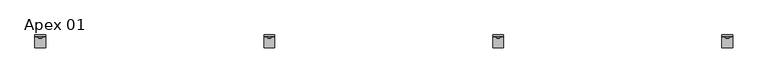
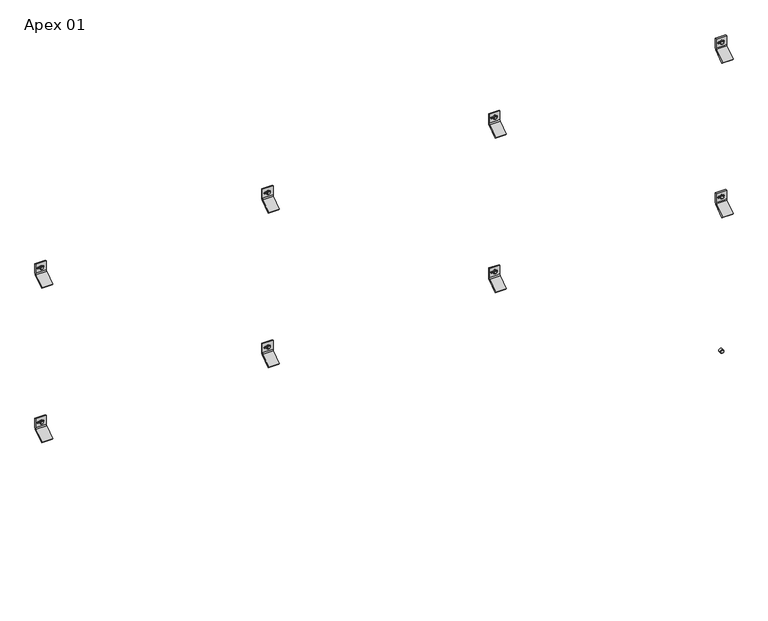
"""IFC4 building model written with IfcOpenShell, lengths in millimetres: plate geometry, Single-Panel-Perforated-Amico_Architectural : Apex 01."""

from ifc_helpers import new_model, si_unit, point, frame, frame_2d, origin, place, context, project, spatial, polyline, circle_curve, trimmed, segment, composite_curve, outline, extrude, source, transform, mapped, element, save
from ifc_brep_helpers import plane_surface, cylinder_surface, revolved_surface, advanced_brep


def apex_01_a5c02051(model_context):
    return source(origin(), model_context, "Body", "SolidModel", [
        extrude(outline(polyline([(1939.6304341, 1223.7070034), (1935.2847216, 1226.2160017), (1935.2847216, 1231.2339983), (1939.6304341, 1233.7429966), (1943.9761466, 1231.2339983), (1943.9761466, 1226.2160017), (1939.6304341, 1223.7070034)])), frame((0.0, -58.7607779, 0.0), z_axis=(0.0, 1.0, 0.0), x_axis=(0.0, 0.0, 1.0)), (0.0, 0.0, 1.0), 11.1357779),
        extrude(outline(composite_curve([segment(trimmed(circle_curve(frame_2d((1939.7237411, 1228.725)), 6.35), [point((1939.7237411, 1235.075))], [point((1939.7237411, 1222.375))], False, "CARTESIAN"), True, "CONTINUOUS"), segment(trimmed(circle_curve(frame_2d((1939.7237411, 1228.725)), 6.35), [point((1939.7237411, 1222.375))], [point((1939.7237411, 1235.075))], False, "CARTESIAN"), True, "CONTINUOUS")], self_intersect=False)), frame((0.0, -57.0817743, 0.0), z_axis=(0.0, 1.0, 0.0), x_axis=(0.0, 0.0, 1.0)), (0.0, 0.0, 1.0), 9.4567743),
        advanced_brep(
        [(1209.675, -47.625, 1922.481122), (1209.675, -51.2819443, 1914.8190896), (1209.675, -89.5163624, 1888.0470618), (1209.675, -92.9330442, 1891.4637436), (1209.675, -54.3526876, 1918.4780001), (1209.675, -52.4002, 1922.4811929), (1209.675, -52.4002, 1956.6738072), (1209.675, -47.625, 1956.6738072), (1247.775, -47.625, 1922.481122), (1247.775, -47.625, 1956.6738072), (1247.775, -52.4002, 1956.6738072), (1247.775, -52.4002, 1922.4811929), (1247.775, -54.3526876, 1918.4780001), (1247.775, -92.9330442, 1891.4637436), (1247.775, -89.5163624, 1888.0470618), (1247.775, -51.2819443, 1914.8190896), (1235.4661889, -52.4002, 1942.628591), (1235.4661889, -52.4002, 1936.278591), (1219.2383287, -52.4002, 1936.278591), (1219.2383287, -52.4002, 1942.628591), (1235.4661889, -47.625, 1936.278591), (1235.4661889, -47.625, 1942.628591), (1219.2383287, -47.625, 1942.628591), (1219.2383287, -47.625, 1936.278591)],
        [
            (0, 1, circle_curve(frame((1209.675, -57.4802202, 1922.481122), z_axis=(-1.0, 0.0, 0.0), x_axis=(0.0, -1.0, 0.0)), 9.8552202)),
            (1, 2),
            (2, 3),
            (3, 4),
            (4, 5, circle_curve(frame((1209.675, -57.4803246, 1922.4811929), z_axis=(1.0, 0.0, 0.0), x_axis=(0.0, -1.0, 0.0)), 5.0801246)),
            (5, 6),
            (6, 7),
            (7, 0),
            (8, 9),
            (9, 10),
            (10, 11),
            (11, 12, circle_curve(frame((1247.775, -57.4803246, 1922.4811929), z_axis=(-1.0, 0.0, 0.0), x_axis=(0.0, -1.0, 0.0)), 5.0801246)),
            (12, 13),
            (13, 14),
            (14, 15),
            (15, 8, circle_curve(frame((1247.775, -57.4802202, 1922.481122), z_axis=(1.0, 0.0, 0.0), x_axis=(0.0, -1.0, 0.0)), 9.8552202)),
            (4, 12),
            (11, 5),
            (10, 6),
            (16, 17, circle_curve(frame((1235.4661889, -52.4002, 1939.453591), z_axis=(0.0, 1.0, 0.0), x_axis=(0.0, 0.0, -1.0)), 3.175)),
            (17, 18),
            (18, 19, circle_curve(frame((1219.2383287, -52.4002, 1939.453591), z_axis=(0.0, 1.0, 0.0), x_axis=(0.0, 0.0, -1.0)), 3.175)),
            (19, 16),
            (9, 7),
            (8, 0),
            (20, 21, circle_curve(frame((1235.4661889, -47.625, 1939.453591), z_axis=(0.0, -1.0, 0.0), x_axis=(0.0, 0.0, -1.0)), 3.175)),
            (21, 22),
            (22, 23, circle_curve(frame((1219.2383287, -47.625, 1939.453591), z_axis=(0.0, -1.0, 0.0), x_axis=(0.0, 0.0, -1.0)), 3.175)),
            (23, 20),
            (15, 1),
            (20, 17),
            (16, 21),
            (19, 22),
            (18, 23),
            (14, 2),
            (13, 3),
        ],
        [
            plane_surface(frame((1209.675, -67.3354404, 1922.481122), z_axis=(-1.0, 0.0, 0.0), x_axis=(0.0, 0.0, 1.0))),
            plane_surface(frame((1247.775, -67.3354404, 1922.481122), z_axis=(1.0, 0.0, 0.0), x_axis=(0.0, 0.0, -1.0))),
            revolved_surface(polyline([(1247.775, -62.5604492, 1922.4811929), (1209.675, -62.5604492, 1922.4811929)]), (1247.775, -57.4803246, 1922.4811929), (1.0, 0.0, 0.0)),
            plane_surface(frame((1209.675, -52.4002, 1922.4811929), z_axis=(0.0, -1.0, 0.0), x_axis=(1.0, 0.0, 0.0))),
            plane_surface(frame((1209.675, -52.4002, 1956.6738072), z_axis=(0.0, 0.0, 1.0), x_axis=(1.0, 0.0, 0.0))),
            plane_surface(frame((1209.675, -47.625, 1956.6738072), z_axis=(0.0, 1.0, 6.99569853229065e-12), x_axis=(1.0, 0.0, 0.0))),
            cylinder_surface(frame((1247.775, -57.4802202, 1922.481122), z_axis=(-1.0, 0.0, 0.0), x_axis=(0.0, -1.0, 0.0)), 9.8552202),
            revolved_surface(polyline([(1235.4661889, -52.4002, 1936.278591), (1235.4661889, -47.625, 1936.278591)]), (1235.4661889, -25.6669948, 1939.453591), (0.0, -1.0, 0.0)),
            plane_surface(frame((1235.4661889, -86.677982, 1942.628591), z_axis=(0.0, 0.0, -1.0), x_axis=(0.0, 1.0, 0.0))),
            revolved_surface(polyline([(1219.2383287, -52.4002, 1936.278591), (1219.2383287, -47.625, 1936.278591)]), (1219.2383287, -25.6669948, 1939.453591), (0.0, -1.0, 0.0)),
            plane_surface(frame((1219.2383287, -86.677982, 1936.278591), z_axis=(-2.7237720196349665e-11, 0.0, 1.0), x_axis=(0.0, 1.0, 0.0))),
            plane_surface(frame((1209.675, -51.2819443, 1914.8190896), z_axis=(0.0, 0.5735764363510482, -0.8191520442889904), x_axis=(1.0, 0.0, 0.0))),
            plane_surface(frame((1209.675, -89.5163624, 1888.0470618), z_axis=(0.0, -0.7071067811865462, -0.7071067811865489), x_axis=(1.0, 0.0, 0.0))),
            plane_surface(frame((1209.675, -92.9330442, 1891.4637436), z_axis=(0.0, -0.5735764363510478, 0.8191520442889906), x_axis=(1.0, 0.0, 0.0))),
        ],
        [
            (0, [[1, 2, 3, 4, 5, 6, 7, 8]]),
            (1, [[9, 10, 11, 12, 13, 14, 15, 16]]),
            (2, [[-5, 17, -12, 18]]),
            (3, [[-6, -18, -11, 19], [20, 21, 22, 23]]),
            (4, [[-7, -19, -10, 24]]),
            (5, [[-8, -24, -9, 25], [26, 27, 28, 29]]),
            (6, [[-1, -25, -16, 30]]),
            (7, [[31, -20, 32, -26]]),
            (8, [[-32, -23, 33, -27]]),
            (9, [[-33, -22, 34, -28]]),
            (10, [[-31, -29, -34, -21]]),
            (11, [[-2, -30, -15, 35]]),
            (12, [[-3, -35, -14, 36]]),
            (13, [[-4, -36, -13, -17]]),
        ],
    ),
        extrude(outline(polyline([(1939.6304341, 404.5570034), (1935.2847216, 407.0660017), (1935.2847216, 412.0839983), (1939.6304341, 414.5929966), (1943.9761466, 412.0839983), (1943.9761466, 407.0660017), (1939.6304341, 404.5570034)])), frame((0.0, -58.7607779, 0.0), z_axis=(0.0, 1.0, 0.0), x_axis=(0.0, 0.0, 1.0)), (0.0, 0.0, 1.0), 11.1357779),
        extrude(outline(composite_curve([segment(trimmed(circle_curve(frame_2d((1939.7237411, 409.575)), 6.35), [point((1939.7237411, 415.925))], [point((1939.7237411, 403.225))], False, "CARTESIAN"), True, "CONTINUOUS"), segment(trimmed(circle_curve(frame_2d((1939.7237411, 409.575)), 6.35), [point((1939.7237411, 403.225))], [point((1939.7237411, 415.925))], False, "CARTESIAN"), True, "CONTINUOUS")], self_intersect=False)), frame((0.0, -57.0817743, 0.0), z_axis=(0.0, 1.0, 0.0), x_axis=(0.0, 0.0, 1.0)), (0.0, 0.0, 1.0), 9.4567743),
        advanced_brep(
        [(390.525, -47.625, 1922.481122), (390.525, -51.2819443, 1914.8190896), (390.525, -89.5163624, 1888.0470618), (390.525, -92.9330442, 1891.4637436), (390.525, -54.3526876, 1918.4780001), (390.525, -52.4002, 1922.4811929), (390.525, -52.4002, 1956.6738072), (390.525, -47.625, 1956.6738072), (428.625, -47.625, 1922.481122), (428.625, -47.625, 1956.6738072), (428.625, -52.4002, 1956.6738072), (428.625, -52.4002, 1922.4811929), (428.625, -54.3526876, 1918.4780001), (428.625, -92.9330442, 1891.4637436), (428.625, -89.5163624, 1888.0470618), (428.625, -51.2819443, 1914.8190896), (416.3161889, -52.4002, 1942.628591), (416.3161889, -52.4002, 1936.278591), (400.0883287, -52.4002, 1936.278591), (400.0883287, -52.4002, 1942.628591), (416.3161889, -47.625, 1936.278591), (416.3161889, -47.625, 1942.628591), (400.0883287, -47.625, 1942.628591), (400.0883287, -47.625, 1936.278591)],
        [
            (0, 1, circle_curve(frame((390.525, -57.4802202, 1922.481122), z_axis=(-1.0, 0.0, 0.0), x_axis=(0.0, -1.0, 0.0)), 9.8552202)),
            (1, 2),
            (2, 3),
            (3, 4),
            (4, 5, circle_curve(frame((390.525, -57.4803246, 1922.4811929), z_axis=(1.0, 0.0, 0.0), x_axis=(0.0, -1.0, 0.0)), 5.0801246)),
            (5, 6),
            (6, 7),
            (7, 0),
            (8, 9),
            (9, 10),
            (10, 11),
            (11, 12, circle_curve(frame((428.625, -57.4803246, 1922.4811929), z_axis=(-1.0, 0.0, 0.0), x_axis=(0.0, -1.0, 0.0)), 5.0801246)),
            (12, 13),
            (13, 14),
            (14, 15),
            (15, 8, circle_curve(frame((428.625, -57.4802202, 1922.481122), z_axis=(1.0, 0.0, 0.0), x_axis=(0.0, -1.0, 0.0)), 9.8552202)),
            (4, 12),
            (11, 5),
            (10, 6),
            (16, 17, circle_curve(frame((416.3161889, -52.4002, 1939.453591), z_axis=(0.0, 1.0, 0.0), x_axis=(0.0, 0.0, -1.0)), 3.175)),
            (17, 18),
            (18, 19, circle_curve(frame((400.0883287, -52.4002, 1939.453591), z_axis=(0.0, 1.0, 0.0), x_axis=(0.0, 0.0, -1.0)), 3.175)),
            (19, 16),
            (9, 7),
            (8, 0),
            (20, 21, circle_curve(frame((416.3161889, -47.625, 1939.453591), z_axis=(0.0, -1.0, 0.0), x_axis=(0.0, 0.0, -1.0)), 3.175)),
            (21, 22),
            (22, 23, circle_curve(frame((400.0883287, -47.625, 1939.453591), z_axis=(0.0, -1.0, 0.0), x_axis=(0.0, 0.0, -1.0)), 3.175)),
            (23, 20),
            (15, 1),
            (20, 17),
            (16, 21),
            (19, 22),
            (18, 23),
            (14, 2),
            (13, 3),
        ],
        [
            plane_surface(frame((390.525, -67.3354404, 1922.481122), z_axis=(-1.0, 0.0, 0.0), x_axis=(0.0, 0.0, 1.0))),
            plane_surface(frame((428.625, -67.3354404, 1922.481122), z_axis=(1.0, 0.0, 0.0), x_axis=(0.0, 0.0, -1.0))),
            revolved_surface(polyline([(428.625, -62.5604492, 1922.4811929), (390.525, -62.5604492, 1922.4811929)]), (428.625, -57.4803246, 1922.4811929), (1.0, 0.0, 0.0)),
            plane_surface(frame((390.525, -52.4002, 1922.4811929), z_axis=(0.0, -1.0, 0.0), x_axis=(1.0, 0.0, 0.0))),
            plane_surface(frame((390.525, -52.4002, 1956.6738072), z_axis=(0.0, 0.0, 1.0), x_axis=(1.0, 0.0, 0.0))),
            plane_surface(frame((390.525, -47.625, 1956.6738072), z_axis=(0.0, 1.0, 6.99569853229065e-12), x_axis=(1.0, 0.0, 0.0))),
            cylinder_surface(frame((428.625, -57.4802202, 1922.481122), z_axis=(-1.0, 0.0, 0.0), x_axis=(0.0, -1.0, 0.0)), 9.8552202),
            revolved_surface(polyline([(416.3161889, -52.4002, 1936.278591), (416.3161889, -47.625, 1936.278591)]), (416.3161889, -25.6669948, 1939.453591), (0.0, -1.0, 0.0)),
            plane_surface(frame((416.3161889, -86.677982, 1942.628591), z_axis=(0.0, 0.0, -1.0), x_axis=(0.0, 1.0, 0.0))),
            revolved_surface(polyline([(400.0883287, -52.4002, 1936.278591), (400.0883287, -47.625, 1936.278591)]), (400.0883287, -25.6669948, 1939.453591), (0.0, -1.0, 0.0)),
            plane_surface(frame((400.0883287, -86.677982, 1936.278591), z_axis=(-2.7237720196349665e-11, 0.0, 1.0), x_axis=(0.0, 1.0, 0.0))),
            plane_surface(frame((390.525, -51.2819443, 1914.8190896), z_axis=(0.0, 0.5735764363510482, -0.8191520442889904), x_axis=(1.0, 0.0, 0.0))),
            plane_surface(frame((390.525, -89.5163624, 1888.0470618), z_axis=(0.0, -0.7071067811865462, -0.7071067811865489), x_axis=(1.0, 0.0, 0.0))),
            plane_surface(frame((390.525, -92.9330442, 1891.4637436), z_axis=(0.0, -0.5735764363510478, 0.8191520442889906), x_axis=(1.0, 0.0, 0.0))),
        ],
        [
            (0, [[1, 2, 3, 4, 5, 6, 7, 8]]),
            (1, [[9, 10, 11, 12, 13, 14, 15, 16]]),
            (2, [[-5, 17, -12, 18]]),
            (3, [[-6, -18, -11, 19], [20, 21, 22, 23]]),
            (4, [[-7, -19, -10, 24]]),
            (5, [[-8, -24, -9, 25], [26, 27, 28, 29]]),
            (6, [[-1, -25, -16, 30]]),
            (7, [[31, -20, 32, -26]]),
            (8, [[-32, -23, 33, -27]]),
            (9, [[-33, -22, 34, -28]]),
            (10, [[-31, -29, -34, -21]]),
            (11, [[-2, -30, -15, 35]]),
            (12, [[-3, -35, -14, 36]]),
            (13, [[-4, -36, -13, -17]]),
        ],
    ),
        extrude(outline(polyline([(1939.6304341, -414.5929966), (1935.2847216, -412.0839983), (1935.2847216, -407.0660017), (1939.6304341, -404.5570034), (1943.9761466, -407.0660017), (1943.9761466, -412.0839983), (1939.6304341, -414.5929966)])), frame((0.0, -58.7607779, 0.0), z_axis=(0.0, 1.0, 0.0), x_axis=(0.0, 0.0, 1.0)), (0.0, 0.0, 1.0), 11.1357779),
        extrude(outline(composite_curve([segment(trimmed(circle_curve(frame_2d((1939.7237411, -409.575)), 6.35), [point((1939.7237411, -403.225))], [point((1939.7237411, -415.925))], False, "CARTESIAN"), True, "CONTINUOUS"), segment(trimmed(circle_curve(frame_2d((1939.7237411, -409.575)), 6.35), [point((1939.7237411, -415.925))], [point((1939.7237411, -403.225))], False, "CARTESIAN"), True, "CONTINUOUS")], self_intersect=False)), frame((0.0, -57.0817743, 0.0), z_axis=(0.0, 1.0, 0.0), x_axis=(0.0, 0.0, 1.0)), (0.0, 0.0, 1.0), 9.4567743),
        advanced_brep(
        [(-428.625, -47.625, 1922.481122), (-428.625, -51.2819443, 1914.8190896), (-428.625, -89.5163624, 1888.0470618), (-428.625, -92.9330442, 1891.4637436), (-428.625, -54.3526876, 1918.4780001), (-428.625, -52.4002, 1922.4811929), (-428.625, -52.4002, 1956.6738072), (-428.625, -47.625, 1956.6738072), (-390.525, -47.625, 1922.481122), (-390.525, -47.625, 1956.6738072), (-390.525, -52.4002, 1956.6738072), (-390.525, -52.4002, 1922.4811929), (-390.525, -54.3526876, 1918.4780001), (-390.525, -92.9330442, 1891.4637436), (-390.525, -89.5163624, 1888.0470618), (-390.525, -51.2819443, 1914.8190896), (-402.8338111, -52.4002, 1942.628591), (-402.8338111, -52.4002, 1936.278591), (-419.0616713, -52.4002, 1936.278591), (-419.0616713, -52.4002, 1942.628591), (-402.8338111, -47.625, 1936.278591), (-402.8338111, -47.625, 1942.628591), (-419.0616713, -47.625, 1942.628591), (-419.0616713, -47.625, 1936.278591)],
        [
            (0, 1, circle_curve(frame((-428.625, -57.4802202, 1922.481122), z_axis=(-1.0, 0.0, 0.0), x_axis=(0.0, -1.0, 0.0)), 9.8552202)),
            (1, 2),
            (2, 3),
            (3, 4),
            (4, 5, circle_curve(frame((-428.625, -57.4803246, 1922.4811929), z_axis=(1.0, 0.0, 0.0), x_axis=(0.0, -1.0, 0.0)), 5.0801246)),
            (5, 6),
            (6, 7),
            (7, 0),
            (8, 9),
            (9, 10),
            (10, 11),
            (11, 12, circle_curve(frame((-390.525, -57.4803246, 1922.4811929), z_axis=(-1.0, 0.0, 0.0), x_axis=(0.0, -1.0, 0.0)), 5.0801246)),
            (12, 13),
            (13, 14),
            (14, 15),
            (15, 8, circle_curve(frame((-390.525, -57.4802202, 1922.481122), z_axis=(1.0, 0.0, 0.0), x_axis=(0.0, -1.0, 0.0)), 9.8552202)),
            (4, 12),
            (11, 5),
            (10, 6),
            (16, 17, circle_curve(frame((-402.8338111, -52.4002, 1939.453591), z_axis=(0.0, 1.0, 0.0), x_axis=(0.0, 0.0, -1.0)), 3.175)),
            (17, 18),
            (18, 19, circle_curve(frame((-419.0616713, -52.4002, 1939.453591), z_axis=(0.0, 1.0, 0.0), x_axis=(0.0, 0.0, -1.0)), 3.175)),
            (19, 16),
            (9, 7),
            (8, 0),
            (20, 21, circle_curve(frame((-402.8338111, -47.625, 1939.453591), z_axis=(0.0, -1.0, 0.0), x_axis=(0.0, 0.0, -1.0)), 3.175)),
            (21, 22),
            (22, 23, circle_curve(frame((-419.0616713, -47.625, 1939.453591), z_axis=(0.0, -1.0, 0.0), x_axis=(0.0, 0.0, -1.0)), 3.175)),
            (23, 20),
            (15, 1),
            (20, 17),
            (16, 21),
            (19, 22),
            (18, 23),
            (14, 2),
            (13, 3),
        ],
        [
            plane_surface(frame((-428.625, -67.3354404, 1922.481122), z_axis=(-1.0, 0.0, 0.0), x_axis=(0.0, 0.0, 1.0))),
            plane_surface(frame((-390.525, -67.3354404, 1922.481122), z_axis=(1.0, 0.0, 0.0), x_axis=(0.0, 0.0, -1.0))),
            revolved_surface(polyline([(-390.525, -62.5604492, 1922.4811929), (-428.625, -62.5604492, 1922.4811929)]), (-390.525, -57.4803246, 1922.4811929), (1.0, 0.0, 0.0)),
            plane_surface(frame((-428.625, -52.4002, 1922.4811929), z_axis=(0.0, -1.0, 0.0), x_axis=(1.0, 0.0, 0.0))),
            plane_surface(frame((-428.625, -52.4002, 1956.6738072), z_axis=(0.0, 0.0, 1.0), x_axis=(1.0, 0.0, 0.0))),
            plane_surface(frame((-428.625, -47.625, 1956.6738072), z_axis=(0.0, 1.0, 6.99569853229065e-12), x_axis=(1.0, 0.0, 0.0))),
            cylinder_surface(frame((-390.525, -57.4802202, 1922.481122), z_axis=(-1.0, 0.0, 0.0), x_axis=(0.0, -1.0, 0.0)), 9.8552202),
            revolved_surface(polyline([(-402.8338111, -52.4002, 1936.278591), (-402.8338111, -47.625, 1936.278591)]), (-402.8338111, -25.6669948, 1939.453591), (0.0, -1.0, 0.0)),
            plane_surface(frame((-402.8338111, -86.677982, 1942.628591), z_axis=(0.0, 0.0, -1.0), x_axis=(0.0, 1.0, 0.0))),
            revolved_surface(polyline([(-419.0616713, -52.4002, 1936.278591), (-419.0616713, -47.625, 1936.278591)]), (-419.0616713, -25.6669948, 1939.453591), (0.0, -1.0, 0.0)),
            plane_surface(frame((-419.0616713, -86.677982, 1936.278591), z_axis=(-2.7237720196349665e-11, 0.0, 1.0), x_axis=(0.0, 1.0, 0.0))),
            plane_surface(frame((-428.625, -51.2819443, 1914.8190896), z_axis=(0.0, 0.5735764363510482, -0.8191520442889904), x_axis=(1.0, 0.0, 0.0))),
            plane_surface(frame((-428.625, -89.5163624, 1888.0470618), z_axis=(0.0, -0.7071067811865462, -0.7071067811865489), x_axis=(1.0, 0.0, 0.0))),
            plane_surface(frame((-428.625, -92.9330442, 1891.4637436), z_axis=(0.0, -0.5735764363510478, 0.8191520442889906), x_axis=(1.0, 0.0, 0.0))),
        ],
        [
            (0, [[1, 2, 3, 4, 5, 6, 7, 8]]),
            (1, [[9, 10, 11, 12, 13, 14, 15, 16]]),
            (2, [[-5, 17, -12, 18]]),
            (3, [[-6, -18, -11, 19], [20, 21, 22, 23]]),
            (4, [[-7, -19, -10, 24]]),
            (5, [[-8, -24, -9, 25], [26, 27, 28, 29]]),
            (6, [[-1, -25, -16, 30]]),
            (7, [[31, -20, 32, -26]]),
            (8, [[-32, -23, 33, -27]]),
            (9, [[-33, -22, 34, -28]]),
            (10, [[-31, -29, -34, -21]]),
            (11, [[-2, -30, -15, 35]]),
            (12, [[-3, -35, -14, 36]]),
            (13, [[-4, -36, -13, -17]]),
        ],
    ),
        extrude(outline(polyline([(1939.6304341, -1233.7429966), (1935.2847216, -1231.2339983), (1935.2847216, -1226.2160017), (1939.6304341, -1223.7070034), (1943.9761466, -1226.2160017), (1943.9761466, -1231.2339983), (1939.6304341, -1233.7429966)])), frame((0.0, -58.7607779, 0.0), z_axis=(0.0, 1.0, 0.0), x_axis=(0.0, 0.0, 1.0)), (0.0, 0.0, 1.0), 11.1357779),
        extrude(outline(composite_curve([segment(trimmed(circle_curve(frame_2d((1939.7237411, -1228.725)), 6.35), [point((1939.7237411, -1222.375))], [point((1939.7237411, -1235.075))], False, "CARTESIAN"), True, "CONTINUOUS"), segment(trimmed(circle_curve(frame_2d((1939.7237411, -1228.725)), 6.35), [point((1939.7237411, -1235.075))], [point((1939.7237411, -1222.375))], False, "CARTESIAN"), True, "CONTINUOUS")], self_intersect=False)), frame((0.0, -57.0817743, 0.0), z_axis=(0.0, 1.0, 0.0), x_axis=(0.0, 0.0, 1.0)), (0.0, 0.0, 1.0), 9.4567743),
        advanced_brep(
        [(-1247.775, -47.625, 1922.481122), (-1247.775, -51.2819443, 1914.8190896), (-1247.775, -89.5163624, 1888.0470618), (-1247.775, -92.9330442, 1891.4637436), (-1247.775, -54.3526876, 1918.4780001), (-1247.775, -52.4002, 1922.4811929), (-1247.775, -52.4002, 1956.6738072), (-1247.775, -47.625, 1956.6738072), (-1209.675, -47.625, 1922.481122), (-1209.675, -47.625, 1956.6738072), (-1209.675, -52.4002, 1956.6738072), (-1209.675, -52.4002, 1922.4811929), (-1209.675, -54.3526876, 1918.4780001), (-1209.675, -92.9330442, 1891.4637436), (-1209.675, -89.5163624, 1888.0470618), (-1209.675, -51.2819443, 1914.8190896), (-1221.9838111, -52.4002, 1942.628591), (-1221.9838111, -52.4002, 1936.278591), (-1238.2116713, -52.4002, 1936.278591), (-1238.2116713, -52.4002, 1942.628591), (-1221.9838111, -47.625, 1936.278591), (-1221.9838111, -47.625, 1942.628591), (-1238.2116713, -47.625, 1942.628591), (-1238.2116713, -47.625, 1936.278591)],
        [
            (0, 1, circle_curve(frame((-1247.775, -57.4802202, 1922.481122), z_axis=(-1.0, 0.0, 0.0), x_axis=(0.0, -1.0, 0.0)), 9.8552202)),
            (1, 2),
            (2, 3),
            (3, 4),
            (4, 5, circle_curve(frame((-1247.775, -57.4803246, 1922.4811929), z_axis=(1.0, 0.0, 0.0), x_axis=(0.0, -1.0, 0.0)), 5.0801246)),
            (5, 6),
            (6, 7),
            (7, 0),
            (8, 9),
            (9, 10),
            (10, 11),
            (11, 12, circle_curve(frame((-1209.675, -57.4803246, 1922.4811929), z_axis=(-1.0, 0.0, 0.0), x_axis=(0.0, -1.0, 0.0)), 5.0801246)),
            (12, 13),
            (13, 14),
            (14, 15),
            (15, 8, circle_curve(frame((-1209.675, -57.4802202, 1922.481122), z_axis=(1.0, 0.0, 0.0), x_axis=(0.0, -1.0, 0.0)), 9.8552202)),
            (4, 12),
            (11, 5),
            (10, 6),
            (16, 17, circle_curve(frame((-1221.9838111, -52.4002, 1939.453591), z_axis=(0.0, 1.0, 0.0), x_axis=(0.0, 0.0, -1.0)), 3.175)),
            (17, 18),
            (18, 19, circle_curve(frame((-1238.2116713, -52.4002, 1939.453591), z_axis=(0.0, 1.0, 0.0), x_axis=(0.0, 0.0, -1.0)), 3.175)),
            (19, 16),
            (9, 7),
            (8, 0),
            (20, 21, circle_curve(frame((-1221.9838111, -47.625, 1939.453591), z_axis=(0.0, -1.0, 0.0), x_axis=(0.0, 0.0, -1.0)), 3.175)),
            (21, 22),
            (22, 23, circle_curve(frame((-1238.2116713, -47.625, 1939.453591), z_axis=(0.0, -1.0, 0.0), x_axis=(0.0, 0.0, -1.0)), 3.175)),
            (23, 20),
            (15, 1),
            (20, 17),
            (16, 21),
            (19, 22),
            (18, 23),
            (14, 2),
            (13, 3),
        ],
        [
            plane_surface(frame((-1247.775, -67.3354404, 1922.481122), z_axis=(-1.0, 0.0, 0.0), x_axis=(0.0, 0.0, 1.0))),
            plane_surface(frame((-1209.675, -67.3354404, 1922.481122), z_axis=(1.0, 0.0, 0.0), x_axis=(0.0, 0.0, -1.0))),
            revolved_surface(polyline([(-1209.675, -62.5604492, 1922.4811929), (-1247.775, -62.5604492, 1922.4811929)]), (-1209.675, -57.4803246, 1922.4811929), (1.0, 0.0, 0.0)),
            plane_surface(frame((-1247.775, -52.4002, 1922.4811929), z_axis=(0.0, -1.0, 0.0), x_axis=(1.0, 0.0, 0.0))),
            plane_surface(frame((-1247.775, -52.4002, 1956.6738072), z_axis=(0.0, 0.0, 1.0), x_axis=(1.0, 0.0, 0.0))),
            plane_surface(frame((-1247.775, -47.625, 1956.6738072), z_axis=(0.0, 1.0, 6.99569853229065e-12), x_axis=(1.0, 0.0, 0.0))),
            cylinder_surface(frame((-1209.675, -57.4802202, 1922.481122), z_axis=(-1.0, 0.0, 0.0), x_axis=(0.0, -1.0, 0.0)), 9.8552202),
            revolved_surface(polyline([(-1221.9838111, -52.4002, 1936.278591), (-1221.9838111, -47.625, 1936.278591)]), (-1221.9838111, -25.6669948, 1939.453591), (0.0, -1.0, 0.0)),
            plane_surface(frame((-1221.9838111, -86.677982, 1942.628591), z_axis=(0.0, 0.0, -1.0), x_axis=(0.0, 1.0, 0.0))),
            revolved_surface(polyline([(-1238.2116713, -52.4002, 1936.278591), (-1238.2116713, -47.625, 1936.278591)]), (-1238.2116713, -25.6669948, 1939.453591), (0.0, -1.0, 0.0)),
            plane_surface(frame((-1238.2116713, -86.677982, 1936.278591), z_axis=(-2.7237720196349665e-11, 0.0, 1.0), x_axis=(0.0, 1.0, 0.0))),
            plane_surface(frame((-1247.775, -51.2819443, 1914.8190896), z_axis=(0.0, 0.5735764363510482, -0.8191520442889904), x_axis=(1.0, 0.0, 0.0))),
            plane_surface(frame((-1247.775, -89.5163624, 1888.0470618), z_axis=(0.0, -0.7071067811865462, -0.7071067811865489), x_axis=(1.0, 0.0, 0.0))),
            plane_surface(frame((-1247.775, -92.9330442, 1891.4637436), z_axis=(0.0, -0.5735764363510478, 0.8191520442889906), x_axis=(1.0, 0.0, 0.0))),
        ],
        [
            (0, [[1, 2, 3, 4, 5, 6, 7, 8]]),
            (1, [[9, 10, 11, 12, 13, 14, 15, 16]]),
            (2, [[-5, 17, -12, 18]]),
            (3, [[-6, -18, -11, 19], [20, 21, 22, 23]]),
            (4, [[-7, -19, -10, 24]]),
            (5, [[-8, -24, -9, 25], [26, 27, 28, 29]]),
            (6, [[-1, -25, -16, 30]]),
            (7, [[31, -20, 32, -26]]),
            (8, [[-32, -23, 33, -27]]),
            (9, [[-33, -22, 34, -28]]),
            (10, [[-31, -29, -34, -21]]),
            (11, [[-2, -30, -15, 35]]),
            (12, [[-3, -35, -14, 36]]),
            (13, [[-4, -36, -13, -17]]),
        ],
    ),
        extrude(outline(polyline([(1349.7134668, 1223.7070034), (1345.3677543, 1226.2160017), (1345.3677543, 1231.2339983), (1349.7134668, 1233.7429966), (1354.0591793, 1231.2339983), (1354.0591793, 1226.2160017), (1349.7134668, 1223.7070034)])), frame((0.0, -58.7607779, 0.0), z_axis=(0.0, 1.0, 0.0), x_axis=(0.0, 0.0, 1.0)), (0.0, 0.0, 1.0), 11.1357779),
        extrude(outline(composite_curve([segment(trimmed(circle_curve(frame_2d((1349.8067738, 1228.725)), 6.35), [point((1349.8067738, 1235.075))], [point((1349.8067738, 1222.375))], False, "CARTESIAN"), True, "CONTINUOUS"), segment(trimmed(circle_curve(frame_2d((1349.8067738, 1228.725)), 6.35), [point((1349.8067738, 1222.375))], [point((1349.8067738, 1235.075))], False, "CARTESIAN"), True, "CONTINUOUS")], self_intersect=False)), frame((0.0, -57.0817743, 0.0), z_axis=(0.0, 1.0, 0.0), x_axis=(0.0, 0.0, 1.0)), (0.0, 0.0, 1.0), 9.4567743),
        advanced_brep(
        [(1209.675, -47.625, 1332.5641547), (1209.675, -51.2819443, 1324.9021223), (1209.675, -89.5163624, 1298.1300945), (1209.675, -92.9330442, 1301.5467763), (1209.675, -54.3526876, 1328.5610329), (1209.675, -52.4002, 1332.5642256), (1209.675, -52.4002, 1366.7568399), (1209.675, -47.625, 1366.7568399), (1247.775, -47.625, 1332.5641547), (1247.775, -47.625, 1366.7568399), (1247.775, -52.4002, 1366.7568399), (1247.775, -52.4002, 1332.5642256), (1247.775, -54.3526876, 1328.5610329), (1247.775, -92.9330442, 1301.5467763), (1247.775, -89.5163624, 1298.1300945), (1247.775, -51.2819443, 1324.9021223), (1235.4661889, -52.4002, 1352.7116237), (1235.4661889, -52.4002, 1346.3616237), (1219.2383287, -52.4002, 1346.3616237), (1219.2383287, -52.4002, 1352.7116237), (1235.4661889, -47.625, 1346.3616237), (1235.4661889, -47.625, 1352.7116237), (1219.2383287, -47.625, 1352.7116237), (1219.2383287, -47.625, 1346.3616237)],
        [
            (0, 1, circle_curve(frame((1209.675, -57.4802202, 1332.5641547), z_axis=(-1.0, 0.0, 0.0), x_axis=(0.0, -1.0, 0.0)), 9.8552202)),
            (1, 2),
            (2, 3),
            (3, 4),
            (4, 5, circle_curve(frame((1209.675, -57.4803246, 1332.5642256), z_axis=(1.0, 0.0, 0.0), x_axis=(0.0, -1.0, 0.0)), 5.0801246)),
            (5, 6),
            (6, 7),
            (7, 0),
            (8, 9),
            (9, 10),
            (10, 11),
            (11, 12, circle_curve(frame((1247.775, -57.4803246, 1332.5642256), z_axis=(-1.0, 0.0, 0.0), x_axis=(0.0, -1.0, 0.0)), 5.0801246)),
            (12, 13),
            (13, 14),
            (14, 15),
            (15, 8, circle_curve(frame((1247.775, -57.4802202, 1332.5641547), z_axis=(1.0, 0.0, 0.0), x_axis=(0.0, -1.0, 0.0)), 9.8552202)),
            (4, 12),
            (11, 5),
            (10, 6),
            (16, 17, circle_curve(frame((1235.4661889, -52.4002, 1349.5366237), z_axis=(0.0, 1.0, 0.0), x_axis=(0.0, 0.0, -1.0)), 3.175)),
            (17, 18),
            (18, 19, circle_curve(frame((1219.2383287, -52.4002, 1349.5366237), z_axis=(0.0, 1.0, 0.0), x_axis=(0.0, 0.0, -1.0)), 3.175)),
            (19, 16),
            (9, 7),
            (8, 0),
            (20, 21, circle_curve(frame((1235.4661889, -47.625, 1349.5366237), z_axis=(0.0, -1.0, 0.0), x_axis=(0.0, 0.0, -1.0)), 3.175)),
            (21, 22),
            (22, 23, circle_curve(frame((1219.2383287, -47.625, 1349.5366237), z_axis=(0.0, -1.0, 0.0), x_axis=(0.0, 0.0, -1.0)), 3.175)),
            (23, 20),
            (15, 1),
            (20, 17),
            (16, 21),
            (19, 22),
            (18, 23),
            (14, 2),
            (13, 3),
        ],
        [
            plane_surface(frame((1209.675, -67.3354404, 1332.5641547), z_axis=(-1.0, 0.0, 0.0), x_axis=(0.0, 0.0, 1.0))),
            plane_surface(frame((1247.775, -67.3354404, 1332.5641547), z_axis=(1.0, 0.0, 0.0), x_axis=(0.0, 0.0, -1.0))),
            revolved_surface(polyline([(1247.775, -62.5604492, 1332.5642256), (1209.675, -62.5604492, 1332.5642256)]), (1247.775, -57.4803246, 1332.5642256), (1.0, 0.0, 0.0)),
            plane_surface(frame((1209.675, -52.4002, 1332.5642256), z_axis=(0.0, -1.0, 0.0), x_axis=(1.0, 0.0, 0.0))),
            plane_surface(frame((1209.675, -52.4002, 1366.7568399), z_axis=(0.0, 0.0, 1.0), x_axis=(1.0, 0.0, 0.0))),
            plane_surface(frame((1209.675, -47.625, 1366.7568399), z_axis=(0.0, 1.0, 6.99569853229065e-12), x_axis=(1.0, 0.0, 0.0))),
            cylinder_surface(frame((1247.775, -57.4802202, 1332.5641547), z_axis=(-1.0, 0.0, 0.0), x_axis=(0.0, -1.0, 0.0)), 9.8552202),
            revolved_surface(polyline([(1235.4661889, -52.4002, 1346.3616237), (1235.4661889, -47.625, 1346.3616237)]), (1235.4661889, -25.6669948, 1349.5366237), (0.0, -1.0, 0.0)),
            plane_surface(frame((1235.4661889, -86.677982, 1352.7116237), z_axis=(0.0, 0.0, -1.0), x_axis=(0.0, 1.0, 0.0))),
            revolved_surface(polyline([(1219.2383287, -52.4002, 1346.3616237), (1219.2383287, -47.625, 1346.3616237)]), (1219.2383287, -25.6669948, 1349.5366237), (0.0, -1.0, 0.0)),
            plane_surface(frame((1219.2383287, -86.677982, 1346.3616237), z_axis=(-2.7237766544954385e-11, 0.0, 1.0), x_axis=(0.0, 1.0, 0.0))),
            plane_surface(frame((1209.675, -51.2819443, 1324.9021223), z_axis=(0.0, 0.5735764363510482, -0.8191520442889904), x_axis=(1.0, 0.0, 0.0))),
            plane_surface(frame((1209.675, -89.5163624, 1298.1300945), z_axis=(0.0, -0.7071067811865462, -0.7071067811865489), x_axis=(1.0, 0.0, 0.0))),
            plane_surface(frame((1209.675, -92.9330442, 1301.5467763), z_axis=(0.0, -0.5735764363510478, 0.8191520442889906), x_axis=(1.0, 0.0, 0.0))),
        ],
        [
            (0, [[1, 2, 3, 4, 5, 6, 7, 8]]),
            (1, [[9, 10, 11, 12, 13, 14, 15, 16]]),
            (2, [[-5, 17, -12, 18]]),
            (3, [[-6, -18, -11, 19], [20, 21, 22, 23]]),
            (4, [[-7, -19, -10, 24]]),
            (5, [[-8, -24, -9, 25], [26, 27, 28, 29]]),
            (6, [[-1, -25, -16, 30]]),
            (7, [[31, -20, 32, -26]]),
            (8, [[-32, -23, 33, -27]]),
            (9, [[-33, -22, 34, -28]]),
            (10, [[-31, -29, -34, -21]]),
            (11, [[-2, -30, -15, 35]]),
            (12, [[-3, -35, -14, 36]]),
            (13, [[-4, -36, -13, -17]]),
        ],
    ),
        extrude(outline(polyline([(1349.7134668, 404.5570034), (1345.3677543, 407.0660017), (1345.3677543, 412.0839983), (1349.7134668, 414.5929966), (1354.0591793, 412.0839983), (1354.0591793, 407.0660017), (1349.7134668, 404.5570034)])), frame((0.0, -58.7607779, 0.0), z_axis=(0.0, 1.0, 0.0), x_axis=(0.0, 0.0, 1.0)), (0.0, 0.0, 1.0), 11.1357779),
        extrude(outline(composite_curve([segment(trimmed(circle_curve(frame_2d((1349.8067738, 409.575)), 6.35), [point((1349.8067738, 415.925))], [point((1349.8067738, 403.225))], False, "CARTESIAN"), True, "CONTINUOUS"), segment(trimmed(circle_curve(frame_2d((1349.8067738, 409.575)), 6.35), [point((1349.8067738, 403.225))], [point((1349.8067738, 415.925))], False, "CARTESIAN"), True, "CONTINUOUS")], self_intersect=False)), frame((0.0, -57.0817743, 0.0), z_axis=(0.0, 1.0, 0.0), x_axis=(0.0, 0.0, 1.0)), (0.0, 0.0, 1.0), 9.4567743),
        advanced_brep(
        [(390.525, -47.625, 1332.5641547), (390.525, -51.2819443, 1324.9021223), (390.525, -89.5163624, 1298.1300945), (390.525, -92.9330442, 1301.5467763), (390.525, -54.3526876, 1328.5610329), (390.525, -52.4002, 1332.5642256), (390.525, -52.4002, 1366.7568399), (390.525, -47.625, 1366.7568399), (428.625, -47.625, 1332.5641547), (428.625, -47.625, 1366.7568399), (428.625, -52.4002, 1366.7568399), (428.625, -52.4002, 1332.5642256), (428.625, -54.3526876, 1328.5610329), (428.625, -92.9330442, 1301.5467763), (428.625, -89.5163624, 1298.1300945), (428.625, -51.2819443, 1324.9021223), (416.3161889, -52.4002, 1352.7116237), (416.3161889, -52.4002, 1346.3616237), (400.0883287, -52.4002, 1346.3616237), (400.0883287, -52.4002, 1352.7116237), (416.3161889, -47.625, 1346.3616237), (416.3161889, -47.625, 1352.7116237), (400.0883287, -47.625, 1352.7116237), (400.0883287, -47.625, 1346.3616237)],
        [
            (0, 1, circle_curve(frame((390.525, -57.4802202, 1332.5641547), z_axis=(-1.0, 0.0, 0.0), x_axis=(0.0, -1.0, 0.0)), 9.8552202)),
            (1, 2),
            (2, 3),
            (3, 4),
            (4, 5, circle_curve(frame((390.525, -57.4803246, 1332.5642256), z_axis=(1.0, 0.0, 0.0), x_axis=(0.0, -1.0, 0.0)), 5.0801246)),
            (5, 6),
            (6, 7),
            (7, 0),
            (8, 9),
            (9, 10),
            (10, 11),
            (11, 12, circle_curve(frame((428.625, -57.4803246, 1332.5642256), z_axis=(-1.0, 0.0, 0.0), x_axis=(0.0, -1.0, 0.0)), 5.0801246)),
            (12, 13),
            (13, 14),
            (14, 15),
            (15, 8, circle_curve(frame((428.625, -57.4802202, 1332.5641547), z_axis=(1.0, 0.0, 0.0), x_axis=(0.0, -1.0, 0.0)), 9.8552202)),
            (4, 12),
            (11, 5),
            (10, 6),
            (16, 17, circle_curve(frame((416.3161889, -52.4002, 1349.5366237), z_axis=(0.0, 1.0, 0.0), x_axis=(0.0, 0.0, -1.0)), 3.175)),
            (17, 18),
            (18, 19, circle_curve(frame((400.0883287, -52.4002, 1349.5366237), z_axis=(0.0, 1.0, 0.0), x_axis=(0.0, 0.0, -1.0)), 3.175)),
            (19, 16),
            (9, 7),
            (8, 0),
            (20, 21, circle_curve(frame((416.3161889, -47.625, 1349.5366237), z_axis=(0.0, -1.0, 0.0), x_axis=(0.0, 0.0, -1.0)), 3.175)),
            (21, 22),
            (22, 23, circle_curve(frame((400.0883287, -47.625, 1349.5366237), z_axis=(0.0, -1.0, 0.0), x_axis=(0.0, 0.0, -1.0)), 3.175)),
            (23, 20),
            (15, 1),
            (20, 17),
            (16, 21),
            (19, 22),
            (18, 23),
            (14, 2),
            (13, 3),
        ],
        [
            plane_surface(frame((390.525, -67.3354404, 1332.5641547), z_axis=(-1.0, 0.0, 0.0), x_axis=(0.0, 0.0, 1.0))),
            plane_surface(frame((428.625, -67.3354404, 1332.5641547), z_axis=(1.0, 0.0, 0.0), x_axis=(0.0, 0.0, -1.0))),
            revolved_surface(polyline([(428.625, -62.5604492, 1332.5642256), (390.525, -62.5604492, 1332.5642256)]), (428.625, -57.4803246, 1332.5642256), (1.0, 0.0, 0.0)),
            plane_surface(frame((390.525, -52.4002, 1332.5642256), z_axis=(0.0, -1.0, 0.0), x_axis=(1.0, 0.0, 0.0))),
            plane_surface(frame((390.525, -52.4002, 1366.7568399), z_axis=(0.0, 0.0, 1.0), x_axis=(1.0, 0.0, 0.0))),
            plane_surface(frame((390.525, -47.625, 1366.7568399), z_axis=(0.0, 1.0, 6.99569853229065e-12), x_axis=(1.0, 0.0, 0.0))),
            cylinder_surface(frame((428.625, -57.4802202, 1332.5641547), z_axis=(-1.0, 0.0, 0.0), x_axis=(0.0, -1.0, 0.0)), 9.8552202),
            revolved_surface(polyline([(416.3161889, -52.4002, 1346.3616237), (416.3161889, -47.625, 1346.3616237)]), (416.3161889, -25.6669948, 1349.5366237), (0.0, -1.0, 0.0)),
            plane_surface(frame((416.3161889, -86.677982, 1352.7116237), z_axis=(0.0, 0.0, -1.0), x_axis=(0.0, 1.0, 0.0))),
            revolved_surface(polyline([(400.0883287, -52.4002, 1346.3616237), (400.0883287, -47.625, 1346.3616237)]), (400.0883287, -25.6669948, 1349.5366237), (0.0, -1.0, 0.0)),
            plane_surface(frame((400.0883287, -86.677982, 1346.3616237), z_axis=(-2.7237766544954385e-11, 0.0, 1.0), x_axis=(0.0, 1.0, 0.0))),
            plane_surface(frame((390.525, -51.2819443, 1324.9021223), z_axis=(0.0, 0.5735764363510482, -0.8191520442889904), x_axis=(1.0, 0.0, 0.0))),
            plane_surface(frame((390.525, -89.5163624, 1298.1300945), z_axis=(0.0, -0.7071067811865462, -0.7071067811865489), x_axis=(1.0, 0.0, 0.0))),
            plane_surface(frame((390.525, -92.9330442, 1301.5467763), z_axis=(0.0, -0.5735764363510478, 0.8191520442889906), x_axis=(1.0, 0.0, 0.0))),
        ],
        [
            (0, [[1, 2, 3, 4, 5, 6, 7, 8]]),
            (1, [[9, 10, 11, 12, 13, 14, 15, 16]]),
            (2, [[-5, 17, -12, 18]]),
            (3, [[-6, -18, -11, 19], [20, 21, 22, 23]]),
            (4, [[-7, -19, -10, 24]]),
            (5, [[-8, -24, -9, 25], [26, 27, 28, 29]]),
            (6, [[-1, -25, -16, 30]]),
            (7, [[31, -20, 32, -26]]),
            (8, [[-32, -23, 33, -27]]),
            (9, [[-33, -22, 34, -28]]),
            (10, [[-31, -29, -34, -21]]),
            (11, [[-2, -30, -15, 35]]),
            (12, [[-3, -35, -14, 36]]),
            (13, [[-4, -36, -13, -17]]),
        ],
    ),
        extrude(outline(polyline([(1349.7134668, -414.5929966), (1345.3677543, -412.0839983), (1345.3677543, -407.0660017), (1349.7134668, -404.5570034), (1354.0591793, -407.0660017), (1354.0591793, -412.0839983), (1349.7134668, -414.5929966)])), frame((0.0, -58.7607779, 0.0), z_axis=(0.0, 1.0, 0.0), x_axis=(0.0, 0.0, 1.0)), (0.0, 0.0, 1.0), 11.1357779),
        extrude(outline(composite_curve([segment(trimmed(circle_curve(frame_2d((1349.8067738, -409.575)), 6.35), [point((1349.8067738, -403.225))], [point((1349.8067738, -415.925))], False, "CARTESIAN"), True, "CONTINUOUS"), segment(trimmed(circle_curve(frame_2d((1349.8067738, -409.575)), 6.35), [point((1349.8067738, -415.925))], [point((1349.8067738, -403.225))], False, "CARTESIAN"), True, "CONTINUOUS")], self_intersect=False)), frame((0.0, -57.0817743, 0.0), z_axis=(0.0, 1.0, 0.0), x_axis=(0.0, 0.0, 1.0)), (0.0, 0.0, 1.0), 9.4567743),
        advanced_brep(
        [(-428.625, -47.625, 1332.5641547), (-428.625, -51.2819443, 1324.9021223), (-428.625, -89.5163624, 1298.1300945), (-428.625, -92.9330442, 1301.5467763), (-428.625, -54.3526876, 1328.5610329), (-428.625, -52.4002, 1332.5642256), (-428.625, -52.4002, 1366.7568399), (-428.625, -47.625, 1366.7568399), (-390.525, -47.625, 1332.5641547), (-390.525, -47.625, 1366.7568399), (-390.525, -52.4002, 1366.7568399), (-390.525, -52.4002, 1332.5642256), (-390.525, -54.3526876, 1328.5610329), (-390.525, -92.9330442, 1301.5467763), (-390.525, -89.5163624, 1298.1300945), (-390.525, -51.2819443, 1324.9021223), (-402.8338111, -52.4002, 1352.7116237), (-402.8338111, -52.4002, 1346.3616237), (-419.0616713, -52.4002, 1346.3616237), (-419.0616713, -52.4002, 1352.7116237), (-402.8338111, -47.625, 1346.3616237), (-402.8338111, -47.625, 1352.7116237), (-419.0616713, -47.625, 1352.7116237), (-419.0616713, -47.625, 1346.3616237)],
        [
            (0, 1, circle_curve(frame((-428.625, -57.4802202, 1332.5641547), z_axis=(-1.0, 0.0, 0.0), x_axis=(0.0, -1.0, 0.0)), 9.8552202)),
            (1, 2),
            (2, 3),
            (3, 4),
            (4, 5, circle_curve(frame((-428.625, -57.4803246, 1332.5642256), z_axis=(1.0, 0.0, 0.0), x_axis=(0.0, -1.0, 0.0)), 5.0801246)),
            (5, 6),
            (6, 7),
            (7, 0),
            (8, 9),
            (9, 10),
            (10, 11),
            (11, 12, circle_curve(frame((-390.525, -57.4803246, 1332.5642256), z_axis=(-1.0, 0.0, 0.0), x_axis=(0.0, -1.0, 0.0)), 5.0801246)),
            (12, 13),
            (13, 14),
            (14, 15),
            (15, 8, circle_curve(frame((-390.525, -57.4802202, 1332.5641547), z_axis=(1.0, 0.0, 0.0), x_axis=(0.0, -1.0, 0.0)), 9.8552202)),
            (4, 12),
            (11, 5),
            (10, 6),
            (16, 17, circle_curve(frame((-402.8338111, -52.4002, 1349.5366237), z_axis=(0.0, 1.0, 0.0), x_axis=(0.0, 0.0, -1.0)), 3.175)),
            (17, 18),
            (18, 19, circle_curve(frame((-419.0616713, -52.4002, 1349.5366237), z_axis=(0.0, 1.0, 0.0), x_axis=(0.0, 0.0, -1.0)), 3.175)),
            (19, 16),
            (9, 7),
            (8, 0),
            (20, 21, circle_curve(frame((-402.8338111, -47.625, 1349.5366237), z_axis=(0.0, -1.0, 0.0), x_axis=(0.0, 0.0, -1.0)), 3.175)),
            (21, 22),
            (22, 23, circle_curve(frame((-419.0616713, -47.625, 1349.5366237), z_axis=(0.0, -1.0, 0.0), x_axis=(0.0, 0.0, -1.0)), 3.175)),
            (23, 20),
            (15, 1),
            (20, 17),
            (16, 21),
            (19, 22),
            (18, 23),
            (14, 2),
            (13, 3),
        ],
        [
            plane_surface(frame((-428.625, -67.3354404, 1332.5641547), z_axis=(-1.0, 0.0, 0.0), x_axis=(0.0, 0.0, 1.0))),
            plane_surface(frame((-390.525, -67.3354404, 1332.5641547), z_axis=(1.0, 0.0, 0.0), x_axis=(0.0, 0.0, -1.0))),
            revolved_surface(polyline([(-390.525, -62.5604492, 1332.5642256), (-428.625, -62.5604492, 1332.5642256)]), (-390.525, -57.4803246, 1332.5642256), (1.0, 0.0, 0.0)),
            plane_surface(frame((-428.625, -52.4002, 1332.5642256), z_axis=(0.0, -1.0, 0.0), x_axis=(1.0, 0.0, 0.0))),
            plane_surface(frame((-428.625, -52.4002, 1366.7568399), z_axis=(0.0, 0.0, 1.0), x_axis=(1.0, 0.0, 0.0))),
            plane_surface(frame((-428.625, -47.625, 1366.7568399), z_axis=(0.0, 1.0, 6.99569853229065e-12), x_axis=(1.0, 0.0, 0.0))),
            cylinder_surface(frame((-390.525, -57.4802202, 1332.5641547), z_axis=(-1.0, 0.0, 0.0), x_axis=(0.0, -1.0, 0.0)), 9.8552202),
            revolved_surface(polyline([(-402.8338111, -52.4002, 1346.3616237), (-402.8338111, -47.625, 1346.3616237)]), (-402.8338111, -25.6669948, 1349.5366237), (0.0, -1.0, 0.0)),
            plane_surface(frame((-402.8338111, -86.677982, 1352.7116237), z_axis=(0.0, 0.0, -1.0), x_axis=(0.0, 1.0, 0.0))),
            revolved_surface(polyline([(-419.0616713, -52.4002, 1346.3616237), (-419.0616713, -47.625, 1346.3616237)]), (-419.0616713, -25.6669948, 1349.5366237), (0.0, -1.0, 0.0)),
            plane_surface(frame((-419.0616713, -86.677982, 1346.3616237), z_axis=(-2.7237766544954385e-11, 0.0, 1.0), x_axis=(0.0, 1.0, 0.0))),
            plane_surface(frame((-428.625, -51.2819443, 1324.9021223), z_axis=(0.0, 0.5735764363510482, -0.8191520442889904), x_axis=(1.0, 0.0, 0.0))),
            plane_surface(frame((-428.625, -89.5163624, 1298.1300945), z_axis=(0.0, -0.7071067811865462, -0.7071067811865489), x_axis=(1.0, 0.0, 0.0))),
            plane_surface(frame((-428.625, -92.9330442, 1301.5467763), z_axis=(0.0, -0.5735764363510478, 0.8191520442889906), x_axis=(1.0, 0.0, 0.0))),
        ],
        [
            (0, [[1, 2, 3, 4, 5, 6, 7, 8]]),
            (1, [[9, 10, 11, 12, 13, 14, 15, 16]]),
            (2, [[-5, 17, -12, 18]]),
            (3, [[-6, -18, -11, 19], [20, 21, 22, 23]]),
            (4, [[-7, -19, -10, 24]]),
            (5, [[-8, -24, -9, 25], [26, 27, 28, 29]]),
            (6, [[-1, -25, -16, 30]]),
            (7, [[31, -20, 32, -26]]),
            (8, [[-32, -23, 33, -27]]),
            (9, [[-33, -22, 34, -28]]),
            (10, [[-31, -29, -34, -21]]),
            (11, [[-2, -30, -15, 35]]),
            (12, [[-3, -35, -14, 36]]),
            (13, [[-4, -36, -13, -17]]),
        ],
    ),
        extrude(outline(polyline([(1349.7134668, -1233.7429966), (1345.3677543, -1231.2339983), (1345.3677543, -1226.2160017), (1349.7134668, -1223.7070034), (1354.0591793, -1226.2160017), (1354.0591793, -1231.2339983), (1349.7134668, -1233.7429966)])), frame((0.0, -58.7607779, 0.0), z_axis=(0.0, 1.0, 0.0), x_axis=(0.0, 0.0, 1.0)), (0.0, 0.0, 1.0), 11.1357779),
        extrude(outline(composite_curve([segment(trimmed(circle_curve(frame_2d((1349.8067738, -1228.725)), 6.35), [point((1349.8067738, -1222.375))], [point((1349.8067738, -1235.075))], False, "CARTESIAN"), True, "CONTINUOUS"), segment(trimmed(circle_curve(frame_2d((1349.8067738, -1228.725)), 6.35), [point((1349.8067738, -1235.075))], [point((1349.8067738, -1222.375))], False, "CARTESIAN"), True, "CONTINUOUS")], self_intersect=False)), frame((0.0, -57.0817743, 0.0), z_axis=(0.0, 1.0, 0.0), x_axis=(0.0, 0.0, 1.0)), (0.0, 0.0, 1.0), 9.4567743),
        advanced_brep(
        [(-1247.775, -47.625, 1332.5641547), (-1247.775, -51.2819443, 1324.9021223), (-1247.775, -89.5163624, 1298.1300945), (-1247.775, -92.9330442, 1301.5467763), (-1247.775, -54.3526876, 1328.5610329), (-1247.775, -52.4002, 1332.5642256), (-1247.775, -52.4002, 1366.7568399), (-1247.775, -47.625, 1366.7568399), (-1209.675, -47.625, 1332.5641547), (-1209.675, -47.625, 1366.7568399), (-1209.675, -52.4002, 1366.7568399), (-1209.675, -52.4002, 1332.5642256), (-1209.675, -54.3526876, 1328.5610329), (-1209.675, -92.9330442, 1301.5467763), (-1209.675, -89.5163624, 1298.1300945), (-1209.675, -51.2819443, 1324.9021223), (-1221.9838111, -52.4002, 1352.7116237), (-1221.9838111, -52.4002, 1346.3616237), (-1238.2116713, -52.4002, 1346.3616237), (-1238.2116713, -52.4002, 1352.7116237), (-1221.9838111, -47.625, 1346.3616237), (-1221.9838111, -47.625, 1352.7116237), (-1238.2116713, -47.625, 1352.7116237), (-1238.2116713, -47.625, 1346.3616237)],
        [
            (0, 1, circle_curve(frame((-1247.775, -57.4802202, 1332.5641547), z_axis=(-1.0, 0.0, 0.0), x_axis=(0.0, -1.0, 0.0)), 9.8552202)),
            (1, 2),
            (2, 3),
            (3, 4),
            (4, 5, circle_curve(frame((-1247.775, -57.4803246, 1332.5642256), z_axis=(1.0, 0.0, 0.0), x_axis=(0.0, -1.0, 0.0)), 5.0801246)),
            (5, 6),
            (6, 7),
            (7, 0),
            (8, 9),
            (9, 10),
            (10, 11),
            (11, 12, circle_curve(frame((-1209.675, -57.4803246, 1332.5642256), z_axis=(-1.0, 0.0, 0.0), x_axis=(0.0, -1.0, 0.0)), 5.0801246)),
            (12, 13),
            (13, 14),
            (14, 15),
            (15, 8, circle_curve(frame((-1209.675, -57.4802202, 1332.5641547), z_axis=(1.0, 0.0, 0.0), x_axis=(0.0, -1.0, 0.0)), 9.8552202)),
            (4, 12),
            (11, 5),
            (10, 6),
            (16, 17, circle_curve(frame((-1221.9838111, -52.4002, 1349.5366237), z_axis=(0.0, 1.0, 0.0), x_axis=(0.0, 0.0, -1.0)), 3.175)),
            (17, 18),
            (18, 19, circle_curve(frame((-1238.2116713, -52.4002, 1349.5366237), z_axis=(0.0, 1.0, 0.0), x_axis=(0.0, 0.0, -1.0)), 3.175)),
            (19, 16),
            (9, 7),
            (8, 0),
            (20, 21, circle_curve(frame((-1221.9838111, -47.625, 1349.5366237), z_axis=(0.0, -1.0, 0.0), x_axis=(0.0, 0.0, -1.0)), 3.175)),
            (21, 22),
            (22, 23, circle_curve(frame((-1238.2116713, -47.625, 1349.5366237), z_axis=(0.0, -1.0, 0.0), x_axis=(0.0, 0.0, -1.0)), 3.175)),
            (23, 20),
            (15, 1),
            (20, 17),
            (16, 21),
            (19, 22),
            (18, 23),
            (14, 2),
            (13, 3),
        ],
        [
            plane_surface(frame((-1247.775, -67.3354404, 1332.5641547), z_axis=(-1.0, 0.0, 0.0), x_axis=(0.0, 0.0, 1.0))),
            plane_surface(frame((-1209.675, -67.3354404, 1332.5641547), z_axis=(1.0, 0.0, 0.0), x_axis=(0.0, 0.0, -1.0))),
            revolved_surface(polyline([(-1209.675, -62.5604492, 1332.5642256), (-1247.775, -62.5604492, 1332.5642256)]), (-1209.675, -57.4803246, 1332.5642256), (1.0, 0.0, 0.0)),
            plane_surface(frame((-1247.775, -52.4002, 1332.5642256), z_axis=(0.0, -1.0, 0.0), x_axis=(1.0, 0.0, 0.0))),
            plane_surface(frame((-1247.775, -52.4002, 1366.7568399), z_axis=(0.0, 0.0, 1.0), x_axis=(1.0, 0.0, 0.0))),
            plane_surface(frame((-1247.775, -47.625, 1366.7568399), z_axis=(0.0, 1.0, 6.99569853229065e-12), x_axis=(1.0, 0.0, 0.0))),
            cylinder_surface(frame((-1209.675, -57.4802202, 1332.5641547), z_axis=(-1.0, 0.0, 0.0), x_axis=(0.0, -1.0, 0.0)), 9.8552202),
            revolved_surface(polyline([(-1221.9838111, -52.4002, 1346.3616237), (-1221.9838111, -47.625, 1346.3616237)]), (-1221.9838111, -25.6669948, 1349.5366237), (0.0, -1.0, 0.0)),
            plane_surface(frame((-1221.9838111, -86.677982, 1352.7116237), z_axis=(0.0, 0.0, -1.0), x_axis=(0.0, 1.0, 0.0))),
            revolved_surface(polyline([(-1238.2116713, -52.4002, 1346.3616237), (-1238.2116713, -47.625, 1346.3616237)]), (-1238.2116713, -25.6669948, 1349.5366237), (0.0, -1.0, 0.0)),
            plane_surface(frame((-1238.2116713, -86.677982, 1346.3616237), z_axis=(-2.7237766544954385e-11, 0.0, 1.0), x_axis=(0.0, 1.0, 0.0))),
            plane_surface(frame((-1247.775, -51.2819443, 1324.9021223), z_axis=(0.0, 0.5735764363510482, -0.8191520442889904), x_axis=(1.0, 0.0, 0.0))),
            plane_surface(frame((-1247.775, -89.5163624, 1298.1300945), z_axis=(0.0, -0.7071067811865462, -0.7071067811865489), x_axis=(1.0, 0.0, 0.0))),
            plane_surface(frame((-1247.775, -92.9330442, 1301.5467763), z_axis=(0.0, -0.5735764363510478, 0.8191520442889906), x_axis=(1.0, 0.0, 0.0))),
        ],
        [
            (0, [[1, 2, 3, 4, 5, 6, 7, 8]]),
            (1, [[9, 10, 11, 12, 13, 14, 15, 16]]),
            (2, [[-5, 17, -12, 18]]),
            (3, [[-6, -18, -11, 19], [20, 21, 22, 23]]),
            (4, [[-7, -19, -10, 24]]),
            (5, [[-8, -24, -9, 25], [26, 27, 28, 29]]),
            (6, [[-1, -25, -16, 30]]),
            (7, [[31, -20, 32, -26]]),
            (8, [[-32, -23, 33, -27]]),
            (9, [[-33, -22, 34, -28]]),
            (10, [[-31, -29, -34, -21]]),
            (11, [[-2, -30, -15, 35]]),
            (12, [[-3, -35, -14, 36]]),
            (13, [[-4, -36, -13, -17]]),
        ],
    ),
        extrude(outline(polyline([(759.7964995, 1223.7070034), (755.450787, 1226.2160017), (755.450787, 1231.2339983), (759.7964995, 1233.7429966), (764.1422121, 1231.2339983), (764.1422121, 1226.2160017), (759.7964995, 1223.7070034)])), frame((0.0, -58.7607779, 0.0), z_axis=(0.0, 1.0, 0.0), x_axis=(0.0, 0.0, 1.0)), (0.0, 0.0, 1.0), 11.1357779),
        extrude(outline(composite_curve([segment(trimmed(circle_curve(frame_2d((759.8898065, 1228.725)), 6.35), [point((759.8898065, 1235.075))], [point((759.8898065, 1222.375))], False, "CARTESIAN"), True, "CONTINUOUS"), segment(trimmed(circle_curve(frame_2d((759.8898065, 1228.725)), 6.35), [point((759.8898065, 1222.375))], [point((759.8898065, 1235.075))], False, "CARTESIAN"), True, "CONTINUOUS")], self_intersect=False)), frame((0.0, -57.0817743, 0.0), z_axis=(0.0, 1.0, 0.0), x_axis=(0.0, 0.0, 1.0)), (0.0, 0.0, 1.0), 9.4567743),
    ])


if __name__ == "__main__":
    model = new_model("IFC4")
    model_context = context("Model", 3, world=origin())
    ifc_project = project(units=[si_unit("LENGTHUNIT", "METRE", prefix="MILLI")], contexts=[model_context])
    site = spatial("IfcSite", under=ifc_project)
    building = spatial("IfcBuilding", under=site)
    placement = place(None, origin())
    apex_01_shape = apex_01_a5c02051(model_context)
    element("IfcPlate", 1, ObjectType="Single-Panel-Perforated-Amico_Architectural : Apex 01", at=placement, inside=building, context=model_context, shape_type="MappedRepresentation", body=[
        mapped(apex_01_shape, transform((0.0, 0.0, 0.0), x_axis=(1.0, 0.0, 0.0), y_axis=(0.0, 1.0, 0.0), z_axis=(0.0, 0.0, 1.0))),
    ])
    save(model, "model.ifc")
